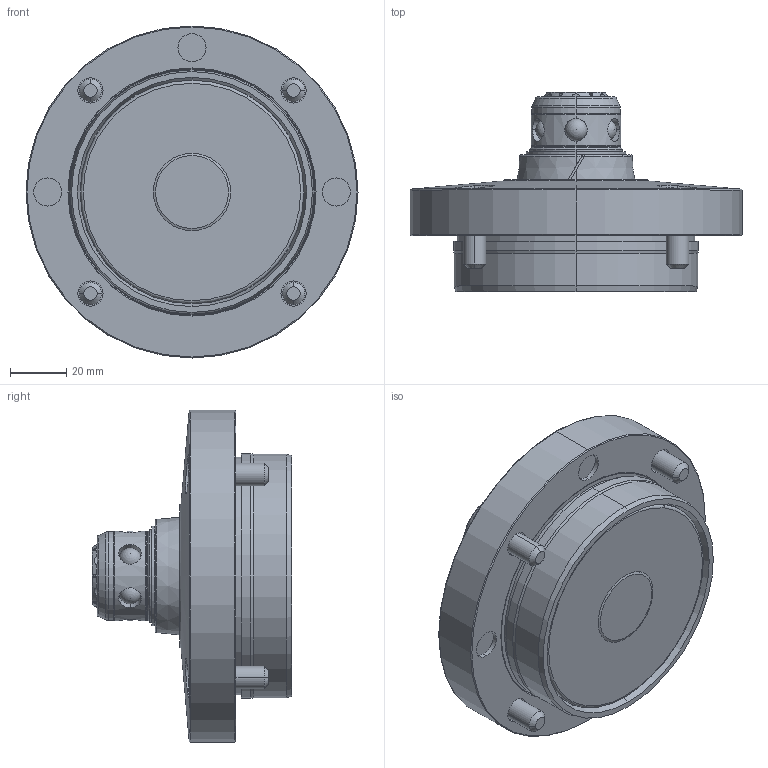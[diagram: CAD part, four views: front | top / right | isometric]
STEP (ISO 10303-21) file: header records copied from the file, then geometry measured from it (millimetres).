
FILE_DESCRIPTION (( 'STEP AP203' ), '1' );
FILE_NAME ('SWT0080-MD.step', '2010-08-04T09:04:51', ( ' ' ), ( ' ' ), 'SwSTEP 2.0', 'SolidWorks 2010', '' );
FILE_SCHEMA (( 'CONFIG_CONTROL_DESIGN' ));
Length unit declared in the file: millimetre
Products named in the file (8): FRS-32S; SWT0080-MD; 4SW100158; 4SW100161; 4SW100163; SWT0080_rubberplate; 鋼球_8; 6妏寠晅无倌_M8_20
Assembly tree (15 placements, depth 2):
  SWT0080-MD
    鋼球_8  x6
    6妏寠晅无倌_M8_20  x4
    4SW100161
    FRS-32S
    4SW100158
    4SW100163
    SWT0080_rubberplate
Bounding box: 118.5 x 71.2 x 118.5 mm (x, y, z)
Volume: 334297.2 mm3; surface area: 70589.9 mm2
Topology: 16 solids, 16 shells, 345 faces, 738 edges, 425 vertices
Faces by surface type: cylinder 124, plane 96, cone 87, torus 26, sphere 12
Entity records: 8728 total; most frequent: CARTESIAN_POINT 2291, DIRECTION 1209, ORIENTED_EDGE 1068, EDGE_CURVE 534, AXIS2_PLACEMENT_3D 519, VERTEX_POINT 322, EDGE_LOOP 288, CIRCLE 259
